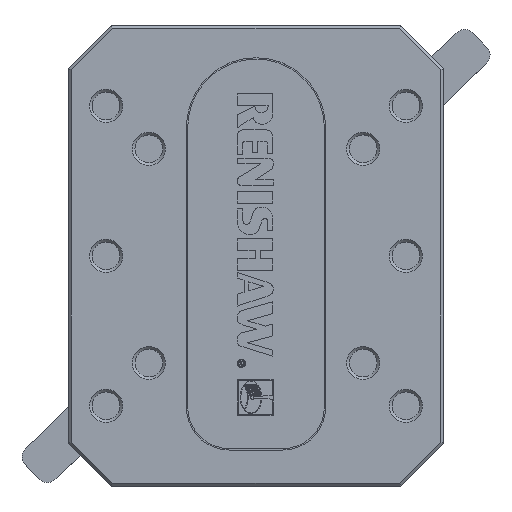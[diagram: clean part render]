
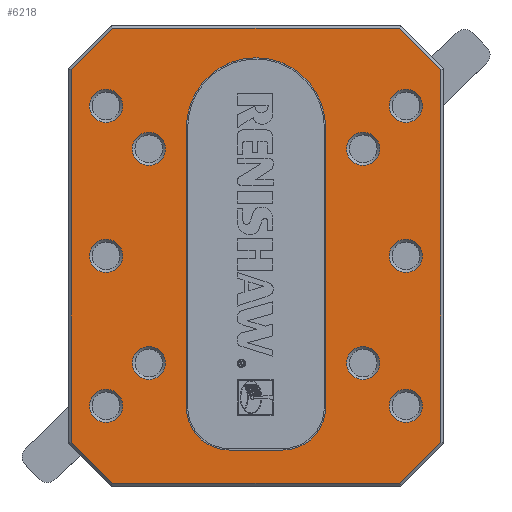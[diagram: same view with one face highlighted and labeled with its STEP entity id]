
A CAD part, top view. The second image highlights one B-rep face of the part: STEP entity #6218.
In plain terms, the highlighted planar face has unit normal (0, 0, 1).
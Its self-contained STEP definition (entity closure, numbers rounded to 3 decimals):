
#257=LINE('',#8163,#677);
#258=LINE('',#8166,#678);
#259=LINE('',#8168,#679);
#260=LINE('',#8170,#680);
#261=LINE('',#8172,#681);
#262=LINE('',#8174,#682);
#263=LINE('',#8176,#683);
#264=LINE('',#8178,#684);
#265=LINE('',#8194,#685);
#266=LINE('',#8198,#686);
#267=LINE('',#8202,#687);
#677=VECTOR('',#6920,1000.);
#678=VECTOR('',#6921,1000.);
#679=VECTOR('',#6922,1000.);
#680=VECTOR('',#6923,1000.);
#681=VECTOR('',#6924,1000.);
#682=VECTOR('',#6925,1000.);
#683=VECTOR('',#6926,1000.);
#684=VECTOR('',#6927,1000.);
#685=VECTOR('',#6942,1000.);
#686=VECTOR('',#6945,1000.);
#687=VECTOR('',#6948,1000.);
#1104=ORIENTED_EDGE('',*,*,#2380,.T.);
#1105=ORIENTED_EDGE('',*,*,#2381,.T.);
#1106=ORIENTED_EDGE('',*,*,#2382,.T.);
#1107=ORIENTED_EDGE('',*,*,#2383,.T.);
#1108=ORIENTED_EDGE('',*,*,#2384,.T.);
#1109=ORIENTED_EDGE('',*,*,#2385,.T.);
#1110=ORIENTED_EDGE('',*,*,#2386,.T.);
#1111=ORIENTED_EDGE('',*,*,#2387,.T.);
#1112=ORIENTED_EDGE('',*,*,#2388,.T.);
#1113=ORIENTED_EDGE('',*,*,#2389,.T.);
#1114=ORIENTED_EDGE('',*,*,#2390,.T.);
#1115=ORIENTED_EDGE('',*,*,#2391,.T.);
#1116=ORIENTED_EDGE('',*,*,#2392,.T.);
#1117=ORIENTED_EDGE('',*,*,#2393,.T.);
#1118=ORIENTED_EDGE('',*,*,#2394,.T.);
#1119=ORIENTED_EDGE('',*,*,#2395,.T.);
#1120=ORIENTED_EDGE('',*,*,#2396,.T.);
#1121=ORIENTED_EDGE('',*,*,#2397,.T.);
#1122=ORIENTED_EDGE('',*,*,#2398,.T.);
#1123=ORIENTED_EDGE('',*,*,#2399,.T.);
#1124=ORIENTED_EDGE('',*,*,#2400,.T.);
#1125=ORIENTED_EDGE('',*,*,#2401,.T.);
#1126=ORIENTED_EDGE('',*,*,#2402,.T.);
#1127=ORIENTED_EDGE('',*,*,#2403,.T.);
#2380=EDGE_CURVE('',#3018,#3018,#3500,.T.);
#2381=EDGE_CURVE('',#3019,#3019,#3501,.T.);
#2382=EDGE_CURVE('',#3020,#3020,#3502,.T.);
#2383=EDGE_CURVE('',#3021,#3021,#3503,.T.);
#2384=EDGE_CURVE('',#3022,#3023,#257,.T.);
#2385=EDGE_CURVE('',#3023,#3024,#258,.T.);
#2386=EDGE_CURVE('',#3024,#3025,#259,.T.);
#2387=EDGE_CURVE('',#3025,#3026,#260,.T.);
#2388=EDGE_CURVE('',#3026,#3027,#261,.T.);
#2389=EDGE_CURVE('',#3027,#3028,#262,.T.);
#2390=EDGE_CURVE('',#3028,#3029,#263,.T.);
#2391=EDGE_CURVE('',#3029,#3022,#264,.T.);
#2392=EDGE_CURVE('',#3030,#3030,#3504,.T.);
#2393=EDGE_CURVE('',#3031,#3031,#3505,.T.);
#2394=EDGE_CURVE('',#3032,#3032,#3506,.T.);
#2395=EDGE_CURVE('',#3033,#3033,#3507,.T.);
#2396=EDGE_CURVE('',#3034,#3034,#3508,.T.);
#2397=EDGE_CURVE('',#3035,#3035,#3509,.T.);
#2398=EDGE_CURVE('',#3036,#3037,#3510,.T.);
#2399=EDGE_CURVE('',#3037,#3038,#265,.T.);
#2400=EDGE_CURVE('',#3038,#3039,#3511,.T.);
#2401=EDGE_CURVE('',#3039,#3040,#266,.T.);
#2402=EDGE_CURVE('',#3040,#3041,#3512,.T.);
#2403=EDGE_CURVE('',#3041,#3036,#267,.T.);
#3018=VERTEX_POINT('',#8156);
#3019=VERTEX_POINT('',#8158);
#3020=VERTEX_POINT('',#8160);
#3021=VERTEX_POINT('',#8162);
#3022=VERTEX_POINT('',#8164);
#3023=VERTEX_POINT('',#8165);
#3024=VERTEX_POINT('',#8167);
#3025=VERTEX_POINT('',#8169);
#3026=VERTEX_POINT('',#8171);
#3027=VERTEX_POINT('',#8173);
#3028=VERTEX_POINT('',#8175);
#3029=VERTEX_POINT('',#8177);
#3030=VERTEX_POINT('',#8180);
#3031=VERTEX_POINT('',#8182);
#3032=VERTEX_POINT('',#8184);
#3033=VERTEX_POINT('',#8186);
#3034=VERTEX_POINT('',#8188);
#3035=VERTEX_POINT('',#8190);
#3036=VERTEX_POINT('',#8192);
#3037=VERTEX_POINT('',#8193);
#3038=VERTEX_POINT('',#8195);
#3039=VERTEX_POINT('',#8197);
#3040=VERTEX_POINT('',#8199);
#3041=VERTEX_POINT('',#8201);
#3500=CIRCLE('',#6486,3.1);
#3501=CIRCLE('',#6487,3.1);
#3502=CIRCLE('',#6488,3.1);
#3503=CIRCLE('',#6489,3.1);
#3504=CIRCLE('',#6490,3.1);
#3505=CIRCLE('',#6491,3.1);
#3506=CIRCLE('',#6492,3.1);
#3507=CIRCLE('',#6493,3.1);
#3508=CIRCLE('',#6494,3.1);
#3509=CIRCLE('',#6495,3.1);
#3510=CIRCLE('',#6496,13.);
#3511=CIRCLE('',#6497,8.);
#3512=CIRCLE('',#6498,8.);
#3639=EDGE_LOOP('',(#1104));
#3640=EDGE_LOOP('',(#1105));
#3641=EDGE_LOOP('',(#1106));
#3642=EDGE_LOOP('',(#1107));
#3643=EDGE_LOOP('',(#1108,#1109,#1110,#1111,#1112,#1113,#1114,#1115));
#3644=EDGE_LOOP('',(#1116));
#3645=EDGE_LOOP('',(#1117));
#3646=EDGE_LOOP('',(#1118));
#3647=EDGE_LOOP('',(#1119));
#3648=EDGE_LOOP('',(#1120));
#3649=EDGE_LOOP('',(#1121));
#3650=EDGE_LOOP('',(#1122,#1123,#1124,#1125,#1126,#1127));
#3971=FACE_BOUND('',#3639,.T.);
#3972=FACE_BOUND('',#3640,.T.);
#3973=FACE_BOUND('',#3641,.T.);
#3974=FACE_BOUND('',#3642,.T.);
#3975=FACE_BOUND('',#3643,.T.);
#3976=FACE_BOUND('',#3644,.T.);
#3977=FACE_BOUND('',#3645,.T.);
#3978=FACE_BOUND('',#3646,.T.);
#3979=FACE_BOUND('',#3647,.T.);
#3980=FACE_BOUND('',#3648,.T.);
#3981=FACE_BOUND('',#3649,.T.);
#3982=FACE_BOUND('',#3650,.T.);
#4308=PLANE('',#6485);
#6218=ADVANCED_FACE('',(#3971,#3972,#3973,#3974,#3975,#3976,#3977,#3978,
#3979,#3980,#3981,#3982),#4308,.F.);
#6485=AXIS2_PLACEMENT_3D('',#8154,#6910,#6911);
#6486=AXIS2_PLACEMENT_3D('',#8155,#6912,#6913);
#6487=AXIS2_PLACEMENT_3D('',#8157,#6914,#6915);
#6488=AXIS2_PLACEMENT_3D('',#8159,#6916,#6917);
#6489=AXIS2_PLACEMENT_3D('',#8161,#6918,#6919);
#6490=AXIS2_PLACEMENT_3D('',#8179,#6928,#6929);
#6491=AXIS2_PLACEMENT_3D('',#8181,#6930,#6931);
#6492=AXIS2_PLACEMENT_3D('',#8183,#6932,#6933);
#6493=AXIS2_PLACEMENT_3D('',#8185,#6934,#6935);
#6494=AXIS2_PLACEMENT_3D('',#8187,#6936,#6937);
#6495=AXIS2_PLACEMENT_3D('',#8189,#6938,#6939);
#6496=AXIS2_PLACEMENT_3D('',#8191,#6940,#6941);
#6497=AXIS2_PLACEMENT_3D('',#8196,#6943,#6944);
#6498=AXIS2_PLACEMENT_3D('',#8200,#6946,#6947);
#6910=DIRECTION('',(0.,0.,-1.));
#6911=DIRECTION('',(-1.,0.,0.));
#6912=DIRECTION('',(0.,0.,-1.));
#6913=DIRECTION('',(-1.,0.,0.));
#6914=DIRECTION('',(0.,0.,-1.));
#6915=DIRECTION('',(-1.,0.,0.));
#6916=DIRECTION('',(0.,0.,-1.));
#6917=DIRECTION('',(-1.,0.,0.));
#6918=DIRECTION('',(0.,0.,-1.));
#6919=DIRECTION('',(-1.,0.,0.));
#6920=DIRECTION('',(0.,1.,0.));
#6921=DIRECTION('',(-0.707,0.707,0.));
#6922=DIRECTION('',(-1.,0.,0.));
#6923=DIRECTION('',(-0.707,-0.707,0.));
#6924=DIRECTION('',(0.,-1.,0.));
#6925=DIRECTION('',(0.707,-0.707,0.));
#6926=DIRECTION('',(1.,0.,0.));
#6927=DIRECTION('',(0.707,0.707,0.));
#6928=DIRECTION('',(0.,0.,-1.));
#6929=DIRECTION('',(-1.,0.,0.));
#6930=DIRECTION('',(0.,0.,-1.));
#6931=DIRECTION('',(-1.,0.,0.));
#6932=DIRECTION('',(0.,0.,-1.));
#6933=DIRECTION('',(-1.,0.,0.));
#6934=DIRECTION('',(0.,0.,-1.));
#6935=DIRECTION('',(-1.,0.,0.));
#6936=DIRECTION('',(0.,0.,-1.));
#6937=DIRECTION('',(-1.,0.,0.));
#6938=DIRECTION('',(0.,0.,-1.));
#6939=DIRECTION('',(-1.,0.,0.));
#6940=DIRECTION('',(0.,0.,-1.));
#6941=DIRECTION('',(-1.,0.,0.));
#6942=DIRECTION('',(0.,-1.,0.));
#6943=DIRECTION('',(0.,0.,-1.));
#6944=DIRECTION('',(-1.,0.,0.));
#6945=DIRECTION('',(-1.,0.,0.));
#6946=DIRECTION('',(0.,0.,-1.));
#6947=DIRECTION('',(-1.,0.,0.));
#6948=DIRECTION('',(0.,1.,0.));
#8154=CARTESIAN_POINT('',(-84.447,4.749,-79.3));
#8155=CARTESIAN_POINT('',(-34.447,24.749,-79.3));
#8156=CARTESIAN_POINT('',(-37.547,24.749,-79.3));
#8157=CARTESIAN_POINT('',(-34.447,-15.251,-79.3));
#8158=CARTESIAN_POINT('',(-37.547,-15.251,-79.3));
#8159=CARTESIAN_POINT('',(5.553,-15.251,-79.3));
#8160=CARTESIAN_POINT('',(2.453,-15.251,-79.3));
#8161=CARTESIAN_POINT('',(5.553,24.749,-79.3));
#8162=CARTESIAN_POINT('',(2.453,24.749,-79.3));
#8163=CARTESIAN_POINT('',(20.053,39.749,-79.3));
#8164=CARTESIAN_POINT('',(20.053,-30.044,-79.3));
#8165=CARTESIAN_POINT('',(20.053,39.542,-79.3));
#8166=CARTESIAN_POINT('',(12.2,47.395,-79.3));
#8167=CARTESIAN_POINT('',(12.346,47.249,-79.3));
#8168=CARTESIAN_POINT('',(-41.447,47.249,-79.3));
#8169=CARTESIAN_POINT('',(-41.24,47.249,-79.3));
#8170=CARTESIAN_POINT('',(-49.093,39.395,-79.3));
#8171=CARTESIAN_POINT('',(-48.947,39.542,-79.3));
#8172=CARTESIAN_POINT('',(-48.947,-30.251,-79.3));
#8173=CARTESIAN_POINT('',(-48.947,-30.044,-79.3));
#8174=CARTESIAN_POINT('',(-41.093,-37.898,-79.3));
#8175=CARTESIAN_POINT('',(-41.24,-37.751,-79.3));
#8176=CARTESIAN_POINT('',(12.553,-37.751,-79.3));
#8177=CARTESIAN_POINT('',(12.346,-37.751,-79.3));
#8178=CARTESIAN_POINT('',(20.2,-29.898,-79.3));
#8179=CARTESIAN_POINT('',(-42.447,32.749,-79.3));
#8180=CARTESIAN_POINT('',(-45.547,32.749,-79.3));
#8181=CARTESIAN_POINT('',(-42.447,4.749,-79.3));
#8182=CARTESIAN_POINT('',(-45.547,4.749,-79.3));
#8183=CARTESIAN_POINT('',(-42.447,-23.251,-79.3));
#8184=CARTESIAN_POINT('',(-45.547,-23.251,-79.3));
#8185=CARTESIAN_POINT('',(13.553,32.749,-79.3));
#8186=CARTESIAN_POINT('',(10.453,32.749,-79.3));
#8187=CARTESIAN_POINT('',(13.553,4.749,-79.3));
#8188=CARTESIAN_POINT('',(10.453,4.749,-79.3));
#8189=CARTESIAN_POINT('',(13.553,-23.251,-79.3));
#8190=CARTESIAN_POINT('',(10.453,-23.251,-79.3));
#8191=CARTESIAN_POINT('',(-14.447,28.749,-79.3));
#8192=CARTESIAN_POINT('',(-27.447,28.749,-79.3));
#8193=CARTESIAN_POINT('',(-1.447,28.749,-79.3));
#8194=CARTESIAN_POINT('',(-1.447,41.749,-79.3));
#8195=CARTESIAN_POINT('',(-1.447,-23.501,-79.3));
#8196=CARTESIAN_POINT('',(-9.447,-23.501,-79.3));
#8197=CARTESIAN_POINT('',(-9.447,-31.501,-79.3));
#8198=CARTESIAN_POINT('',(-1.447,-31.501,-79.3));
#8199=CARTESIAN_POINT('',(-19.447,-31.501,-79.3));
#8200=CARTESIAN_POINT('',(-19.447,-23.501,-79.3));
#8201=CARTESIAN_POINT('',(-27.447,-23.501,-79.3));
#8202=CARTESIAN_POINT('',(-27.447,-31.501,-79.3));
